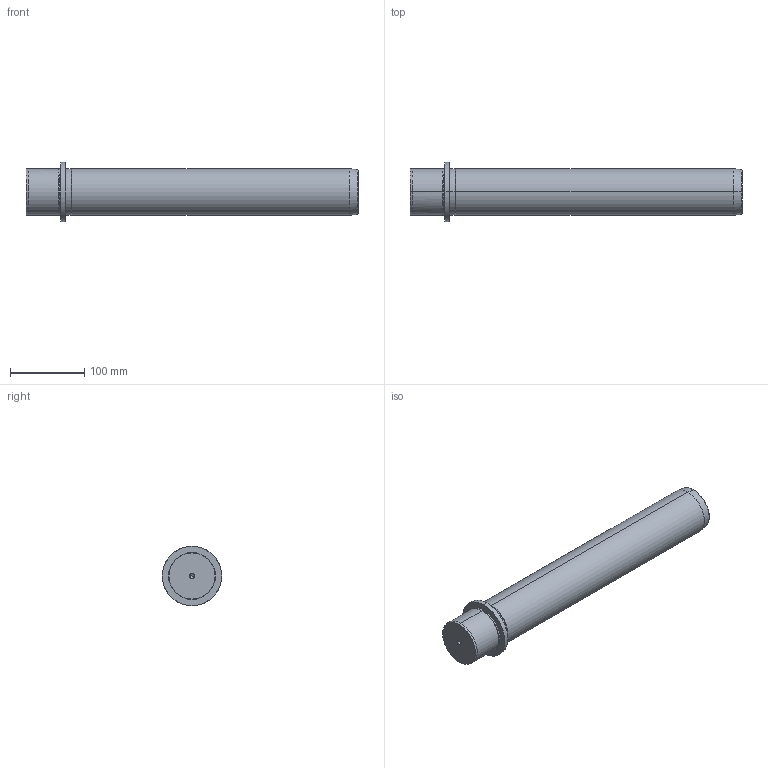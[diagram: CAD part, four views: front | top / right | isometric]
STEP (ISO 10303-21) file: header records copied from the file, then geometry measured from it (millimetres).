
FILE_DESCRIPTION(('CATIA V5 STEP Exchange'),'2;1');
FILE_NAME('C:\Users\Utente\Desktop\IO LAVORO\3D X SITO CF\X SITO\719\719-63x400.stp','2021-01-03T14:41:35+00:00',('none'),('none'),'CATIA Version 5 Release 20 GA (IN-10)','CATIA V5 STEP AP203','none');
FILE_SCHEMA(('CONFIG_CONTROL_DESIGN'));
Length unit declared in the file: millimetre
Products named in the file (1): 719-63x400
Bounding box: 447 x 80 x 80 mm (x, y, z)
Volume: 1400134.1 mm3; surface area: 99584 mm2
Topology: 1 solids, 1 shells, 36 faces, 100 edges, 66 vertices
Faces by surface type: cone 16, cylinder 14, plane 4, torus 2
Entity records: 1273 total; most frequent: CARTESIAN_POINT 342, ORIENTED_EDGE 192, DIRECTION 158, EDGE_CURVE 96, AXIS2_PLACEMENT_3D 93, VERTEX_POINT 66, CIRCLE 56, EDGE_LOOP 40
